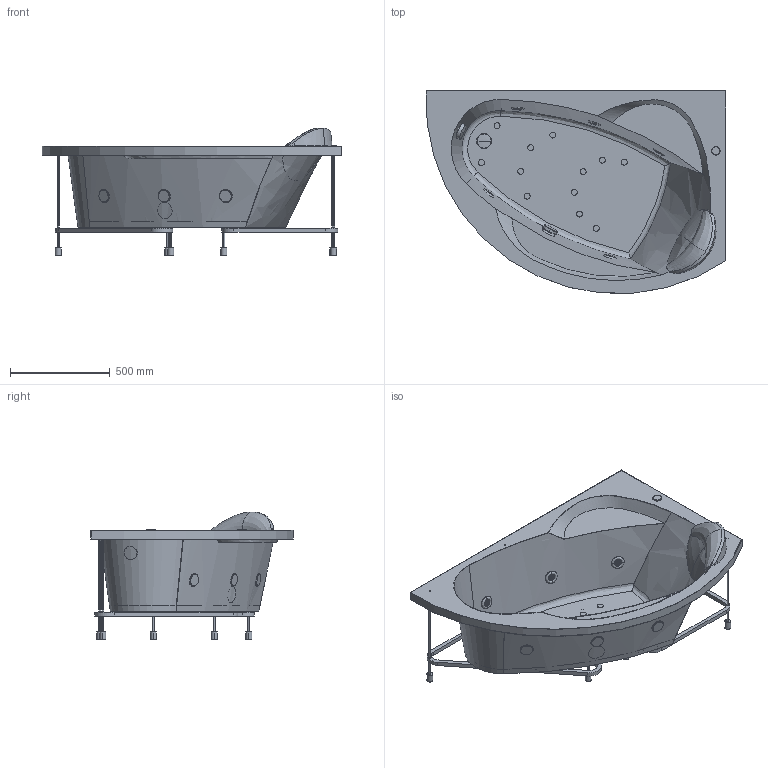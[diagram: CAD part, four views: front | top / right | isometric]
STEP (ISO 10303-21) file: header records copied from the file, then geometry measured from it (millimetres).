
FILE_DESCRIPTION(('STEP AP203'),'2;1');
FILE_NAME('VOG 4 15085 P D.stp','2015-07-24T16:36:58',(''),(''),'2014.1.117','THINKDESIGN','');
FILE_SCHEMA(('CONFIG_CONTROL_DESIGN'));
Length unit declared in the file: millimetre
Bounding box: 1500 x 1011.76 x 640.5 mm (x, y, z)
Volume: 13433739.7 mm3; surface area: 5734387.9 mm2
Topology: 26 solids, 26 shells, 398 faces, 823 edges, 491 vertices
Faces by surface type: bspline 154, cylinder 122, plane 122
Entity records: 20643 total; most frequent: CARTESIAN_POINT 12698, DIRECTION 1634, ORIENTED_EDGE 1578, EDGE_CURVE 789, AXIS2_PLACEMENT_3D 698, VERTEX_POINT 491, CIRCLE 454, EDGE_LOOP 450
